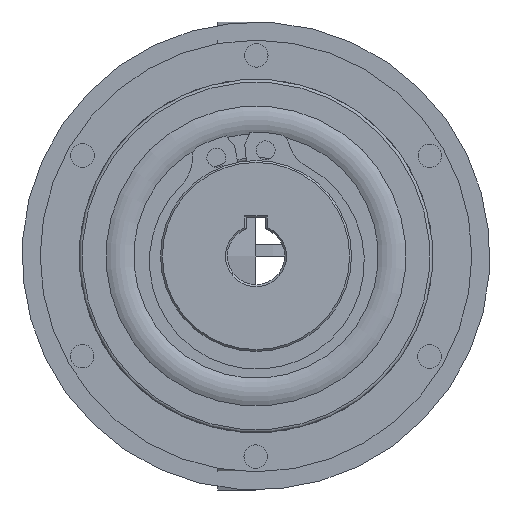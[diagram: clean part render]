
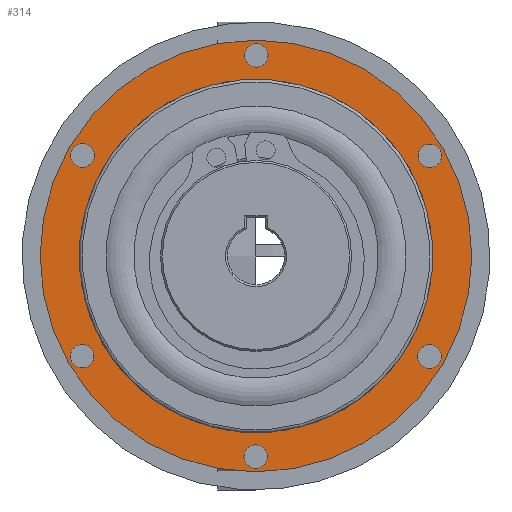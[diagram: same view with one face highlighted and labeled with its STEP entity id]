
A CAD part, left-side view. The second image highlights one B-rep face of the part: STEP entity #314.
In plain terms, the highlighted planar face has unit normal (-1, 0, 0).
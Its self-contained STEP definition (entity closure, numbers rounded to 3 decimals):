
#314 = ADVANCED_FACE( '', ( #540, #541, #542, #543, #544, #545, #546, #547 ), #548, .T. );
#540 = FACE_OUTER_BOUND( '', #796, .T. );
#541 = FACE_BOUND( '', #797, .T. );
#542 = FACE_BOUND( '', #798, .T. );
#543 = FACE_BOUND( '', #799, .T. );
#544 = FACE_BOUND( '', #800, .T. );
#545 = FACE_BOUND( '', #801, .T. );
#546 = FACE_BOUND( '', #802, .T. );
#547 = FACE_BOUND( '', #803, .T. );
#548 = PLANE( '', #804 );
#796 = EDGE_LOOP( '', ( #1302 ) );
#797 = EDGE_LOOP( '', ( #1303 ) );
#798 = EDGE_LOOP( '', ( #1304 ) );
#799 = EDGE_LOOP( '', ( #1305 ) );
#800 = EDGE_LOOP( '', ( #1306 ) );
#801 = EDGE_LOOP( '', ( #1307 ) );
#802 = EDGE_LOOP( '', ( #1308 ) );
#803 = EDGE_LOOP( '', ( #1309 ) );
#804 = AXIS2_PLACEMENT_3D( '', #1310, #1311, #1312 );
#1302 = ORIENTED_EDGE( '', *, *, #1501, .T. );
#1303 = ORIENTED_EDGE( '', *, *, #1502, .T. );
#1304 = ORIENTED_EDGE( '', *, *, #1503, .T. );
#1305 = ORIENTED_EDGE( '', *, *, #1504, .T. );
#1306 = ORIENTED_EDGE( '', *, *, #1505, .T. );
#1307 = ORIENTED_EDGE( '', *, *, #1506, .T. );
#1308 = ORIENTED_EDGE( '', *, *, #1507, .T. );
#1309 = ORIENTED_EDGE( '', *, *, #1508, .F. );
#1310 = CARTESIAN_POINT( '', ( 0., 18.5, 0. ) );
#1311 = DIRECTION( '', ( -1., 0., 0. ) );
#1312 = DIRECTION( '', ( 0., 0., 1. ) );
#1501 = EDGE_CURVE( '', #1725, #1725, #1726, .T. );
#1502 = EDGE_CURVE( '', #1727, #1727, #1728, .T. );
#1503 = EDGE_CURVE( '', #1729, #1729, #1730, .T. );
#1504 = EDGE_CURVE( '', #1731, #1731, #1732, .T. );
#1505 = EDGE_CURVE( '', #1733, #1733, #1734, .T. );
#1506 = EDGE_CURVE( '', #1735, #1735, #1736, .T. );
#1507 = EDGE_CURVE( '', #1737, #1737, #1738, .T. );
#1508 = EDGE_CURVE( '', #1739, #1739, #1740, .T. );
#1725 = VERTEX_POINT( '', #2137 );
#1726 = CIRCLE( '', #2138, 22.6 );
#1727 = VERTEX_POINT( '', #2139 );
#1728 = CIRCLE( '', #2140, 1.23 );
#1729 = VERTEX_POINT( '', #2141 );
#1730 = CIRCLE( '', #2142, 1.23 );
#1731 = VERTEX_POINT( '', #2143 );
#1732 = CIRCLE( '', #2144, 1.23 );
#1733 = VERTEX_POINT( '', #2145 );
#1734 = CIRCLE( '', #2146, 1.23 );
#1735 = VERTEX_POINT( '', #2147 );
#1736 = CIRCLE( '', #2148, 1.23 );
#1737 = VERTEX_POINT( '', #2149 );
#1738 = CIRCLE( '', #2150, 1.23 );
#1739 = VERTEX_POINT( '', #2151 );
#1740 = CIRCLE( '', #2152, 18.5 );
#2137 = CARTESIAN_POINT( '', ( 0., 0., 22.6 ) );
#2138 = AXIS2_PLACEMENT_3D( '', #2425, #2426, #2427 );
#2139 = CARTESIAN_POINT( '', ( 0., 11.565, -17.572 ) );
#2140 = AXIS2_PLACEMENT_3D( '', #2428, #2429, #2430 );
#2141 = CARTESIAN_POINT( '', ( 0., -9.435, -18.801 ) );
#2142 = AXIS2_PLACEMENT_3D( '', #2431, #2432, #2433 );
#2143 = CARTESIAN_POINT( '', ( 0., -21., -1.23 ) );
#2144 = AXIS2_PLACEMENT_3D( '', #2434, #2435, #2436 );
#2145 = CARTESIAN_POINT( '', ( 0., -11.565, 17.572 ) );
#2146 = AXIS2_PLACEMENT_3D( '', #2437, #2438, #2439 );
#2147 = CARTESIAN_POINT( '', ( 0., 9.435, 18.801 ) );
#2148 = AXIS2_PLACEMENT_3D( '', #2440, #2441, #2442 );
#2149 = CARTESIAN_POINT( '', ( 0., 21., 1.23 ) );
#2150 = AXIS2_PLACEMENT_3D( '', #2443, #2444, #2445 );
#2151 = CARTESIAN_POINT( '', ( 0., 0., 18.5 ) );
#2152 = AXIS2_PLACEMENT_3D( '', #2446, #2447, #2448 );
#2425 = CARTESIAN_POINT( '', ( 0., 0., 0. ) );
#2426 = DIRECTION( '', ( -1., 0., 0. ) );
#2427 = DIRECTION( '', ( 0., 0., 1. ) );
#2428 = CARTESIAN_POINT( '', ( 0., 10.5, -18.187 ) );
#2429 = DIRECTION( '', ( 1., 0., 0. ) );
#2430 = DIRECTION( '', ( 0., 0.866, 0.5 ) );
#2431 = CARTESIAN_POINT( '', ( 0., -10.5, -18.187 ) );
#2432 = DIRECTION( '', ( 1., 0., 0. ) );
#2433 = DIRECTION( '', ( 0., 0.866, -0.5 ) );
#2434 = CARTESIAN_POINT( '', ( 0., -21., 0. ) );
#2435 = DIRECTION( '', ( 1., 0., 0. ) );
#2436 = DIRECTION( '', ( 0., 0., -1. ) );
#2437 = CARTESIAN_POINT( '', ( 0., -10.5, 18.187 ) );
#2438 = DIRECTION( '', ( 1., 0., 0. ) );
#2439 = DIRECTION( '', ( 0., -0.866, -0.5 ) );
#2440 = CARTESIAN_POINT( '', ( 0., 10.5, 18.187 ) );
#2441 = DIRECTION( '', ( 1., 0., 0. ) );
#2442 = DIRECTION( '', ( 0., -0.866, 0.5 ) );
#2443 = CARTESIAN_POINT( '', ( 0., 21., 0. ) );
#2444 = DIRECTION( '', ( 1., 0., 0. ) );
#2445 = DIRECTION( '', ( 0., 0., 1. ) );
#2446 = CARTESIAN_POINT( '', ( 0., 0., 0. ) );
#2447 = DIRECTION( '', ( -1., 0., 0. ) );
#2448 = DIRECTION( '', ( 0., 0., 1. ) );
